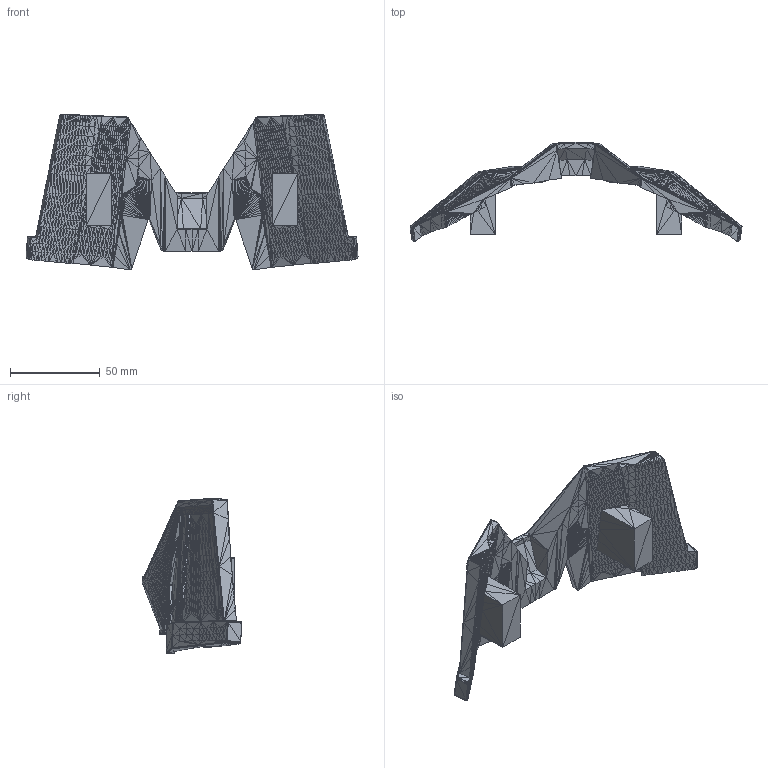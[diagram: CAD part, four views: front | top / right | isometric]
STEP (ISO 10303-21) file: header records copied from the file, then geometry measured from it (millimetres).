
FILE_DESCRIPTION((''),'2;1');
FILE_NAME('Mid Vent', '2025-03-27T07:33:19', (''), (''), 'ImageToStl.com STEP Converter','', '');
FILE_SCHEMA(('AUTOMOTIVE_DESIGN_CC2'));
Length unit declared in the file: metre
Products named in the file (1): product0
Bounding box: 184.81 x 55.59 x 86.53 mm (x, y, z)
Surface area: 36367.4 mm2 (no closed solid volume)
Topology: 0 solids, 34214 shells, 34214 faces, 102642 edges, 17110 vertices
Faces by surface type: plane 34214
Entity records: 821177 total; most frequent: DIRECTION 171072, ORIENTED_EDGE 102642, EDGE_CURVE 102642, LINE 102642, VECTOR 102642, AXIS2_PLACEMENT_3D 34215, STYLED_ITEM 34215, FACE_SURFACE 34214
